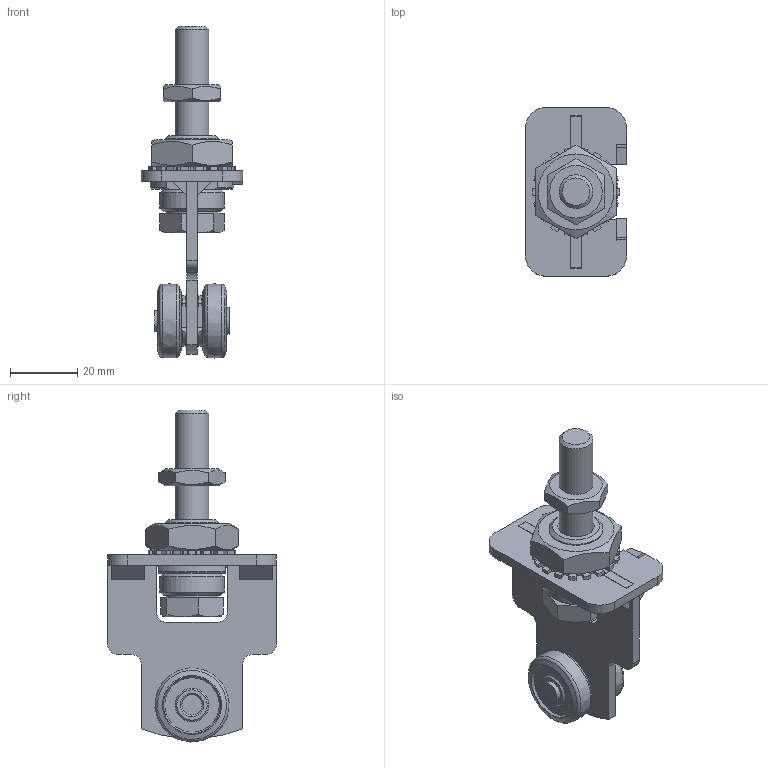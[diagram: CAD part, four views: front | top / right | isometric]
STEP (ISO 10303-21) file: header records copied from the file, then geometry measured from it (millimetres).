
FILE_DESCRIPTION(/* description */ ('Einfachrolle Horizontal Nr.0'),/* implementation_level */ '2;1');
FILE_NAME(/* name */ 'Q:\sge-ma\Produktmanagement-STB\STB\Workspace\TraceParts\Einfachrolle horizontal drehbar\010336372.stp',/* time_stamp */ '2018-02-27T14:06:17+01:00',/* author */ ('avschreier'),/* organization */ (''),/* preprocessor_version */ 'ST-DEVELOPER v16.1',/* originating_system */ 'Autodesk Inventor 2016',/* authorisation */ '');
FILE_SCHEMA (('CONFIG_CONTROL_DESIGN'));
Length unit declared in the file: millimetre
Products named in the file (13): 010336372_Schweißnähte; 000304010; 336290000; 000303234; 000302007; 000302015; 000302078; 000302086; DIN_EN_ISO_4017-M10x55_en; DIN_EN_ISO_4035-M10_en; DIN_6798-A_17_en; DIN_EN_ISO_4035-M16_en; 010336372
Assembly tree (14 placements, depth 2):
  010336372
    010336372_Schweißnähte
    000304010
    336290000  x2
    000303234  x2
    000302007
    000302015
    000302078
    000302086
    DIN_EN_ISO_4017-M10x55_en
    DIN_EN_ISO_4035-M10_en
    DIN_6798-A_17_en
    DIN_EN_ISO_4035-M16_en
Bounding box: 30 x 50 x 98.49 mm (x, y, z)
Volume: 27266.9 mm3; surface area: 19979.4 mm2
Topology: 17 solids, 17 shells, 350 faces, 871 edges, 565 vertices
Faces by surface type: plane 189, cylinder 111, cone 43, torus 5, bspline 2
Full cylindrical faces by diameter (mm): 6 x3, 6.1 x2, 8 x1, 8.376 x1, 9.188 x1, 10 x2, 10.3 x1, 13.835 x1, 15.4 x1, 16 x1, 17 x1, 19 x1
Entity records: 9565 total; most frequent: CARTESIAN_POINT 1723, DIRECTION 1654, ORIENTED_EDGE 1500, EDGE_CURVE 750, AXIS2_PLACEMENT_3D 606, VERTEX_POINT 513, LINE 442, VECTOR 442
